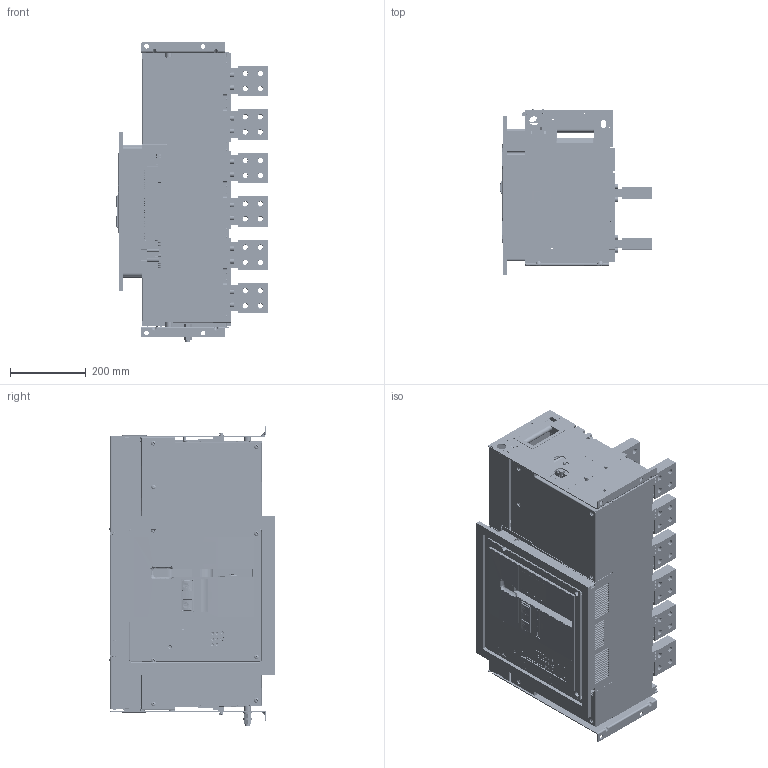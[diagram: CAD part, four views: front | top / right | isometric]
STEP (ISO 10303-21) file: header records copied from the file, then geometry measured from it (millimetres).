
FILE_DESCRIPTION (( 'STEP AP214' ), '1' );
FILE_NAME ('TEW5-6300 D 3P 4900-6300A.STEP', '2026-04-03T12:35:49', ( '' ), ( '' ), 'SwSTEP 2.0', 'SolidWorks 2024', '' );
FILE_SCHEMA (( 'AUTOMOTIVE_DESIGN' ));
Length unit declared in the file: millimetre
Products named in the file (88): 8TZD_947_1001_4.stp; 8TZD_005_6070_1.stp; GB_T809-M6X12-A_AF2_1.stp; 8TZD_340_1004.stp; 8TZD_206_6081_1.stp; 8TZD_050_6047.stp; 8TZD_253_1145_5.stp; 5TZD_055_6033_ASM.stp; 8TZD_253_1144_5.stp; 5TZD_050_6005_ASM.stp; GB_T70_1-M8X35.stp; GB_T97_1_6_5.stp; 8TZD_231_1036_5.stp; 5TZD_005_6012_ASM_1.stp; 8TZD_742_6251.stp; 8TZD_940_1006_5.stp; 8TZD_288_1183_AF1_2.stp; 8TZD_399_1002_2.stp; 8TZD_320_1004.stp; 8TZD_055_6021.stp; GB_T5783-M6X16_2.stp; GB_T809-M6X12-A_AF1_1.stp; TEW5-6300 D 3P 4900-6300A; GB_T93-6_5.stp; GB_T97_1_12_2.stp; 8TZD_941_1000_5.stp; 8TZD_043_6108.stp; 8TZD_288_1020_4.stp; 8TZD_156_6066_3.stp; 8TZD_206_1039_4.stp; 5TZD_300_1057_ASM_1.stp; GB_T5782-M6X16_2.stp; 6TZD_225_6052_ASM.stp; 5TZD_024_6141_ASM_1.stp; 8TZD_580_6073.stp; GB_T93-12_2.stp; GB_T93-8_4.stp; 5TZD_055_6034_ASM.stp; 5TZD_050_6006_ASM.stp; 8TZD_281_1029_5.stp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
Assembly tree (422 placements, depth 6):
  TEW5-6300 D 3P 4900-6300A
    TEW5-6300 D 3P 4900-6300A.stp
      6TZD_225_6052_ASM.stp
        5TZD_024_6141_ASM_1.stp
          5TZD_024_6138_ASM_1.stp
            8TZD_024_6187_AF0_1.stp
            GB_T809-M6X12-A_3.stp  x16
            GB_T809-M6X12-A_AF0_1.stp
            GB_T809-M6X12-A_AF1_1.stp
            GB_T809-M6X12-A_AF2_1.stp
            GB_T809-M4X12-A_1.stp  x4
            8TZD_043_6084_1.stp
            8TZD_043_6085_AF0_1.stp
        5TZD_055_6034_ASM.stp
          5TZD_055_6033_ASM.stp
            8TZD_055_6021.stp
            GB_T809-M6X12-A_3.stp  x18
        5TZD_005_6013_ASM_1.stp
          5TZD_005_6012_ASM_1.stp
            8TZD_005_6070_1.stp
            8TZD_315_1270_5.stp
          8TZD_253_1144_5.stp
          8TZD_253_1145_5.stp
          8TZD_231_1036_5.stp
          8TZD_282_1114_AF0_4.stp
        8TZD_940_1006_5.stp  x4
        GB_T9074_4-M6X55_5.stp  x13
        GB_T9074_4-M6X80_5.stp  x15
        8TZD_940_1005_5.stp  x13
        8TZD_941_1000_5.stp  x12
        8TZD_206_6081_1.stp
        8TZD_281_1029_5.stp
        8TZD_206_1039_4.stp  x6
        GB_T896-6_4.stp  x6
        8TZD_043_6095_1.stp  x2
        8TZD_043_6096_1.stp  x2
        GB_T9074_4-M6X40_5.stp  x4
        6TZD_248_6021_1.stp
        5TZD_558_6399.stp
        GB_T9074_4-M6X25_4.stp  x2
        8TZD_288_1020_4.stp
        GB_T9074_4-M6X30_4.stp  x3
        8TZD_004_6198_1.stp
        8TZD_004_6142_1.stp
      5TZD_050_6005_ASM.stp
        5TZD_050_6003_ASM.stp
          8TZD_050_6046.stp
          8TZD_156_6066_2.stp
          8TZD_125_6001.stp
          GB_T5783-M12X40_2.stp
          GB_T97_1_12_2.stp  x3
          GB_T93-12_2.stp
          GB_T6170-M12_2.stp  x2
          GB_T97_1_6_5.stp  x2
          GB_T93-6_5.stp  x2
          GB_T5782-M6X16_2.stp  x2
          8TZD_156_6066_3.stp
        8TZD_399_1002_2.stp
      5TZD_050_6006_ASM.stp
        5TZD_050_6004_ASM.stp
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Bounding box: 401.9 x 438.47 x 793.25 mm (x, y, z)
Volume: 15004928.6 mm3; surface area: 6463533.3 mm2
Topology: 184 solids, 665 shells, 21060 faces, 53641 edges, 33951 vertices
Faces by surface type: plane 12528, cylinder 5675, cone 1932, bspline 367, torus 360, sphere 198
Entity records: 460794 total; most frequent: CARTESIAN_POINT 124773, ORIENTED_EDGE 70672, DIRECTION 66376, EDGE_CURVE 35420, VECTOR 26984, LINE 26984, VERTEX_POINT 22989, AXIS2_PLACEMENT_3D 19696
